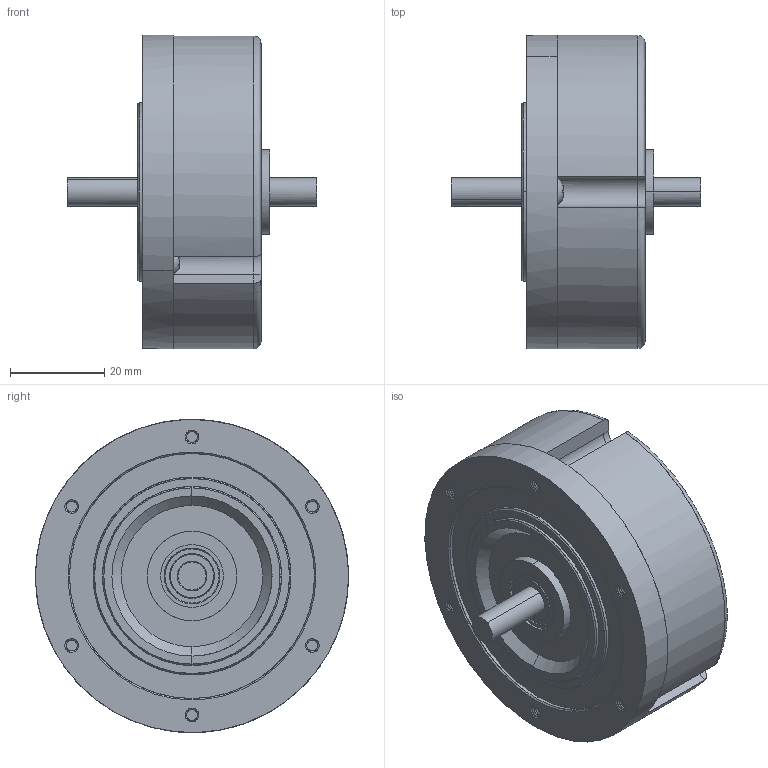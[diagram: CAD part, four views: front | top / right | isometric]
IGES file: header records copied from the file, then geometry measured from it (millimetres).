
Global section: native system: Kubotek KeyCreator; preprocessor: KCM Version 1.1.1442.0; author: KeyCreator User; organization: Self; date: 20210419.050029; units: millimetre
Bounding box: 53 x 66.49 x 66.5 mm (x, y, z)
Surface area: 15156.7 mm2 (no closed solid volume)
Topology: 0 solids, 0 shells, 538 faces, 3676 edges, 3676 vertices
Faces by surface type: bspline 538
